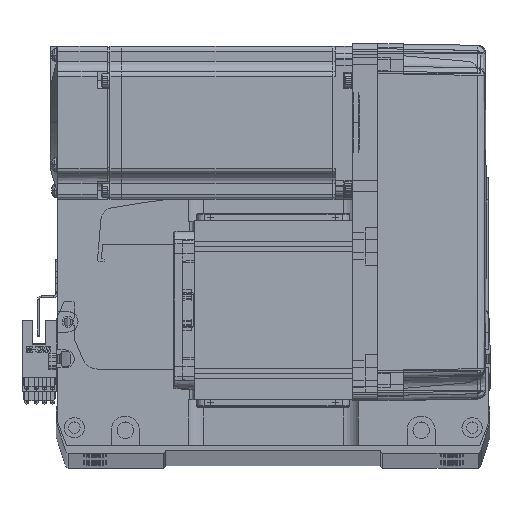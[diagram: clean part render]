
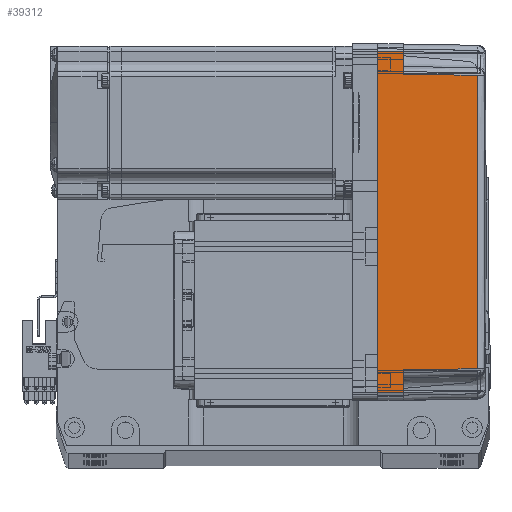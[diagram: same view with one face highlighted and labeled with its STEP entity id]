
A CAD part, top view. The second image highlights one B-rep face of the part: STEP entity #39312.
In plain terms, the highlighted planar face has unit normal (0.018, 0, 1) as drawn and (0, -1, 0.017) by its records, which use the part's own axes.
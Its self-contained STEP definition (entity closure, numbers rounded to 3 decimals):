
#1231 = VERTEX_POINT ( 'NONE', #50789 ) ;
#2655 = EDGE_CURVE ( 'NONE', #1231, #58187, #53338, .T. ) ;
#7571 = DIRECTION ( 'NONE',  ( -1., 0., 0. ) ) ;
#8692 = AXIS2_PLACEMENT_3D ( 'NONE', #36070, #59274, #37025 ) ;
#11858 = VERTEX_POINT ( 'NONE', #69131 ) ;
#14646 = ORIENTED_EDGE ( 'NONE', *, *, #55571, .F. ) ;
#15882 = LINE ( 'NONE', #41950, #71823 ) ;
#16057 = ORIENTED_EDGE ( 'NONE', *, *, #2655, .F. ) ;
#18065 = B_SPLINE_CURVE_WITH_KNOTS ( 'NONE', 3,
 ( #20194, #71255, #37781, #64901 ),
 .UNSPECIFIED., .F., .F.,
 ( 4, 4 ),
 ( 0., 1. ),
 .UNSPECIFIED. ) ;
#19330 = LINE ( 'NONE', #57440, #45584 ) ;
#19851 = ORIENTED_EDGE ( 'NONE', *, *, #31952, .T. ) ;
#20172 = DIRECTION ( 'NONE',  ( -0.017, 0.017, 1. ) ) ;
#20194 = CARTESIAN_POINT ( 'NONE',  ( 57.495, -35.32, 38.985 ) ) ;
#20665 = DIRECTION ( 'NONE',  ( -0.017, -0.017, -1. ) ) ;
#21278 = DIRECTION ( 'NONE',  ( -0.017, 0.017, 1. ) ) ;
#21964 = VECTOR ( 'NONE', #65258, 1000. ) ;
#22278 = EDGE_CURVE ( 'NONE', #42697, #58542, #28498, .T. ) ;
#22883 = CARTESIAN_POINT ( 'NONE',  ( 66.826, -35.825, 10. ) ) ;
#23634 = VECTOR ( 'NONE', #53612, 1000. ) ;
#25061 = PLANE ( 'NONE',  #8692 ) ;
#25197 = CARTESIAN_POINT ( 'NONE',  ( 70., -35.825, 10. ) ) ;
#25493 = CARTESIAN_POINT ( 'NONE',  ( 0., -36., 0. ) ) ;
#25795 = CARTESIAN_POINT ( 'NONE',  ( 67., -36., 0. ) ) ;
#26724 = VECTOR ( 'NONE', #21278, 1000. ) ;
#27270 = FACE_OUTER_BOUND ( 'NONE', #57129, .T. ) ;
#28498 = LINE ( 'NONE', #43798, #26724 ) ;
#30428 = CARTESIAN_POINT ( 'NONE',  ( -58., -35.825, 10. ) ) ;
#31551 = CARTESIAN_POINT ( 'NONE',  ( -66.959, -35.958, 2.39 ) ) ;
#31952 = EDGE_CURVE ( 'NONE', #58542, #65713, #18065, .T. ) ;
#34117 = CARTESIAN_POINT ( 'NONE',  ( -57.495, -35.32, 38.985 ) ) ;
#36070 = CARTESIAN_POINT ( 'NONE',  ( 70., -36., 0. ) ) ;
#36184 = ORIENTED_EDGE ( 'NONE', *, *, #48201, .T. ) ;
#36400 = LINE ( 'NONE', #31551, #62607 ) ;
#37025 = DIRECTION ( 'NONE',  ( 0., -0.017, -1. ) ) ;
#37718 = LINE ( 'NONE', #25197, #21964 ) ;
#37781 = CARTESIAN_POINT ( 'NONE',  ( -19.165, -35.316, 39.181 ) ) ;
#39312 = ADVANCED_FACE ( 'NONE', ( #27270 ), #25061, .T. ) ;
#39378 = ORIENTED_EDGE ( 'NONE', *, *, #22278, .T. ) ;
#39800 = EDGE_CURVE ( 'NONE', #50076, #11858, #37718, .T. ) ;
#41950 = CARTESIAN_POINT ( 'NONE',  ( -57.495, -35.32, 38.985 ) ) ;
#42697 = VERTEX_POINT ( 'NONE', #51818 ) ;
#43798 = CARTESIAN_POINT ( 'NONE',  ( 58., -35.825, 10. ) ) ;
#44731 = VECTOR ( 'NONE', #20172, 1000. ) ;
#44769 = ORIENTED_EDGE ( 'NONE', *, *, #39800, .T. ) ;
#45584 = VECTOR ( 'NONE', #7571, 1000. ) ;
#48164 = EDGE_CURVE ( 'NONE', #65713, #50076, #15882, .T. ) ;
#48201 = EDGE_CURVE ( 'NONE', #1231, #65723, #49008, .T. ) ;
#49008 = LINE ( 'NONE', #25795, #44731 ) ;
#49298 = ORIENTED_EDGE ( 'NONE', *, *, #48164, .T. ) ;
#50076 = VERTEX_POINT ( 'NONE', #30428 ) ;
#50789 = CARTESIAN_POINT ( 'NONE',  ( 67., -36., 0. ) ) ;
#51818 = CARTESIAN_POINT ( 'NONE',  ( 58., -35.825, 10. ) ) ;
#53038 = EDGE_CURVE ( 'NONE', #65723, #42697, #19330, .T. ) ;
#53338 = LINE ( 'NONE', #25493, #23634 ) ;
#53612 = DIRECTION ( 'NONE',  ( -1., 0., 0. ) ) ;
#55242 = CARTESIAN_POINT ( 'NONE',  ( -67., -36., 0. ) ) ;
#55380 = ORIENTED_EDGE ( 'NONE', *, *, #53038, .T. ) ;
#55571 = EDGE_CURVE ( 'NONE', #58187, #11858, #36400, .T. ) ;
#57129 = EDGE_LOOP ( 'NONE', ( #36184, #55380, #39378, #19851, #49298, #44769, #14646, #16057 ) ) ;
#57440 = CARTESIAN_POINT ( 'NONE',  ( 70., -35.825, 10. ) ) ;
#58187 = VERTEX_POINT ( 'NONE', #55242 ) ;
#58542 = VERTEX_POINT ( 'NONE', #71532 ) ;
#59274 = DIRECTION ( 'NONE',  ( 0., -1., 0.017 ) ) ;
#59436 = DIRECTION ( 'NONE',  ( 0.017, 0.017, 1. ) ) ;
#62607 = VECTOR ( 'NONE', #59436, 1000. ) ;
#64901 = CARTESIAN_POINT ( 'NONE',  ( -57.495, -35.32, 38.985 ) ) ;
#65258 = DIRECTION ( 'NONE',  ( -1., 0., 0. ) ) ;
#65713 = VERTEX_POINT ( 'NONE', #34117 ) ;
#65723 = VERTEX_POINT ( 'NONE', #22883 ) ;
#69131 = CARTESIAN_POINT ( 'NONE',  ( -66.826, -35.825, 10. ) ) ;
#71255 = CARTESIAN_POINT ( 'NONE',  ( 19.165, -35.316, 39.181 ) ) ;
#71532 = CARTESIAN_POINT ( 'NONE',  ( 57.495, -35.32, 38.985 ) ) ;
#71823 = VECTOR ( 'NONE', #20665, 1000. ) ;
